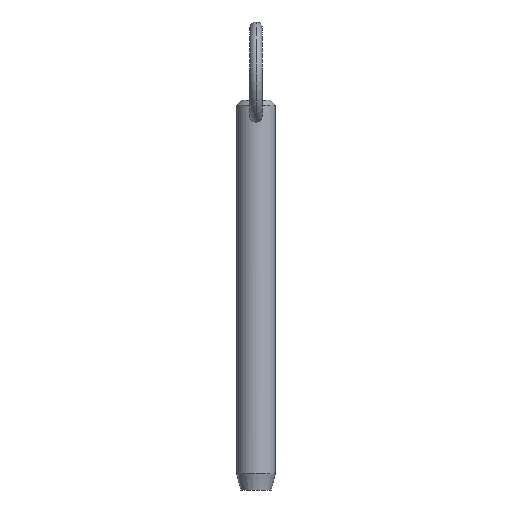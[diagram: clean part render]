
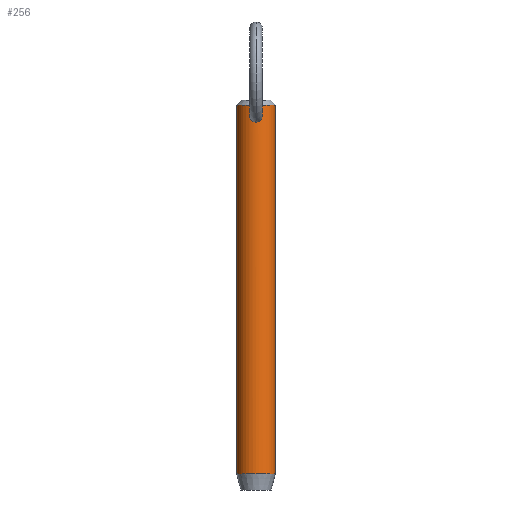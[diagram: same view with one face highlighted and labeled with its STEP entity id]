
A CAD part, front view. The second image highlights one B-rep face of the part: STEP entity #256.
In plain terms, the highlighted cylindrical face has radius 4.76 mm (diameter 9.52 mm), a partial arc.
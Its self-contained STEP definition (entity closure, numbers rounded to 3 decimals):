
#13 = DIRECTION ( 'NONE',  ( -1., 0., 0. ) ) ;
#14 = CARTESIAN_POINT ( 'NONE',  ( 0., 0., -8.7 ) ) ;
#18 = VERTEX_POINT ( 'NONE', #297 ) ;
#19 = CARTESIAN_POINT ( 'NONE',  ( -0.409, -4.743, 80.378 ) ) ;
#21 = AXIS2_PLACEMENT_3D ( 'NONE', #499, #255, #299 ) ;
#27 = CARTESIAN_POINT ( 'NONE',  ( 4.76, 0., 81.25 ) ) ;
#33 = CARTESIAN_POINT ( 'NONE',  ( 1.385, -4.554, 78.032 ) ) ;
#38 = VERTEX_POINT ( 'NONE', #45 ) ;
#45 = CARTESIAN_POINT ( 'NONE',  ( -4.76, 0., -8.7 ) ) ;
#50 = CARTESIAN_POINT ( 'NONE',  ( 1.19, -4.611, 79.724 ) ) ;
#52 = CARTESIAN_POINT ( 'NONE',  ( -0.103, -4.76, 80.448 ) ) ;
#71 = CARTESIAN_POINT ( 'NONE',  ( 1.24, -4.596, 77.76 ) ) ;
#75 = FACE_OUTER_BOUND ( 'NONE', #491, .T. ) ;
#77 = ORIENTED_EDGE ( 'NONE', *, *, #126, .T. ) ;
#89 = CARTESIAN_POINT ( 'NONE',  ( -1.487, -4.522, 78.953 ) ) ;
#103 = VERTEX_POINT ( 'NONE', #128 ) ;
#108 = EDGE_CURVE ( 'NONE', #300, #345, #520, .T. ) ;
#110 = CARTESIAN_POINT ( 'NONE',  ( 0.512, -4.733, 77.208 ) ) ;
#116 = CARTESIAN_POINT ( 'NONE',  ( 0., -4.76, 80.448 ) ) ;
#126 = EDGE_CURVE ( 'NONE', #300, #18, #211, .T. ) ;
#128 = CARTESIAN_POINT ( 'NONE',  ( 0., -4.76, 80.448 ) ) ;
#134 = AXIS2_PLACEMENT_3D ( 'NONE', #383, #502, #181 ) ;
#135 = CARTESIAN_POINT ( 'NONE',  ( -0.416, -4.746, 77.167 ) ) ;
#138 = CARTESIAN_POINT ( 'NONE',  ( -1.292, -4.582, 79.545 ) ) ;
#142 = CARTESIAN_POINT ( 'NONE',  ( 1.293, -4.582, 79.542 ) ) ;
#145 = DIRECTION ( 'NONE',  ( 0., 0., -1. ) ) ;
#159 = CARTESIAN_POINT ( 'NONE',  ( 1.492, -4.52, 78.848 ) ) ;
#162 = LINE ( 'NONE', #185, #394 ) ;
#173 = CARTESIAN_POINT ( 'NONE',  ( 0.409, -4.743, 80.378 ) ) ;
#174 = CARTESIAN_POINT ( 'NONE',  ( -1.19, -4.611, 79.724 ) ) ;
#176 = CARTESIAN_POINT ( 'NONE',  ( -1.247, -4.596, 77.752 ) ) ;
#179 = CARTESIAN_POINT ( 'NONE',  ( -0.793, -4.694, 77.339 ) ) ;
#180 = EDGE_LOOP ( 'NONE', ( #396, #352 ) ) ;
#181 = DIRECTION ( 'NONE',  ( -1., 0., 0. ) ) ;
#182 = EDGE_CURVE ( 'NONE', #38, #345, #375, .T. ) ;
#183 = CARTESIAN_POINT ( 'NONE',  ( 0.77, -4.698, 80.175 ) ) ;
#185 = CARTESIAN_POINT ( 'NONE',  ( -4.76, 0., 76.2 ) ) ;
#187 = ORIENTED_EDGE ( 'NONE', *, *, #275, .T. ) ;
#195 = CARTESIAN_POINT ( 'NONE',  ( 1.178, -4.613, 77.676 ) ) ;
#197 = CARTESIAN_POINT ( 'NONE',  ( 1.434, -4.539, 79.154 ) ) ;
#199 = VERTEX_POINT ( 'NONE', #346 ) ;
#211 = CIRCLE ( 'NONE', #21, 4.76 ) ;
#215 = CARTESIAN_POINT ( 'NONE',  ( -0.961, -4.663, 77.457 ) ) ;
#221 = CARTESIAN_POINT ( 'NONE',  ( -0.208, -4.757, 80.434 ) ) ;
#224 = CARTESIAN_POINT ( 'NONE',  ( 0.506, -4.734, 80.337 ) ) ;
#227 = EDGE_CURVE ( 'NONE', #199, #103, #463, .T. ) ;
#244 = CARTESIAN_POINT ( 'NONE',  ( 1.473, -4.526, 78.331 ) ) ;
#255 = DIRECTION ( 'NONE',  ( 0., 0., -1. ) ) ;
#256 = ADVANCED_FACE ( 'NONE', ( #75, #404 ), #456, .T. ) ;
#259 = CARTESIAN_POINT ( 'NONE',  ( -1.483, -4.524, 78.326 ) ) ;
#269 = CARTESIAN_POINT ( 'NONE',  ( 0.997, -4.655, 79.964 ) ) ;
#275 = EDGE_CURVE ( 'NONE', #18, #38, #162, .T. ) ;
#283 = CARTESIAN_POINT ( 'NONE',  ( 1.503, -4.517, 78.64 ) ) ;
#287 = CARTESIAN_POINT ( 'NONE',  ( 1.45, -4.534, 78.228 ) ) ;
#296 = ORIENTED_EDGE ( 'NONE', *, *, #182, .T. ) ;
#297 = CARTESIAN_POINT ( 'NONE',  ( -4.76, 0., 81.25 ) ) ;
#299 = DIRECTION ( 'NONE',  ( 1., 0., 0. ) ) ;
#300 = VERTEX_POINT ( 'NONE', #27 ) ;
#301 = CARTESIAN_POINT ( 'NONE',  ( 0., -4.76, 77.126 ) ) ;
#303 = CARTESIAN_POINT ( 'NONE',  ( -1.508, -4.515, 78.537 ) ) ;
#304 = CARTESIAN_POINT ( 'NONE',  ( 0., -4.76, 77.126 ) ) ;
#305 = DIRECTION ( 'NONE',  ( 0., 0., 1. ) ) ;
#308 = VECTOR ( 'NONE', #498, 1000. ) ;
#309 = ORIENTED_EDGE ( 'NONE', *, *, #108, .F. ) ;
#310 = CARTESIAN_POINT ( 'NONE',  ( -1.353, -4.564, 77.935 ) ) ;
#312 = CARTESIAN_POINT ( 'NONE',  ( 0.209, -4.756, 80.434 ) ) ;
#328 = CARTESIAN_POINT ( 'NONE',  ( 0.208, -4.757, 77.136 ) ) ;
#332 = CARTESIAN_POINT ( 'NONE',  ( 1.478, -4.525, 78.952 ) ) ;
#343 = CARTESIAN_POINT ( 'NONE',  ( -0.21, -4.76, 77.126 ) ) ;
#345 = VERTEX_POINT ( 'NONE', #473 ) ;
#346 = CARTESIAN_POINT ( 'NONE',  ( 0., -4.76, 77.126 ) ) ;
#349 = CARTESIAN_POINT ( 'NONE',  ( 0., -4.76, 80.448 ) ) ;
#352 = ORIENTED_EDGE ( 'NONE', *, *, #227, .T. ) ;
#358 = CARTESIAN_POINT ( 'NONE',  ( 0.797, -4.697, 77.329 ) ) ;
#366 = CARTESIAN_POINT ( 'NONE',  ( 0.104, -4.76, 80.448 ) ) ;
#375 = CIRCLE ( 'NONE', #492, 4.76 ) ;
#380 = CARTESIAN_POINT ( 'NONE',  ( 0.925, -4.67, 80.039 ) ) ;
#381 = CARTESIAN_POINT ( 'NONE',  ( -1.441, -4.537, 79.157 ) ) ;
#383 = CARTESIAN_POINT ( 'NONE',  ( 0., 0., 76.2 ) ) ;
#394 = VECTOR ( 'NONE', #145, 1000. ) ;
#396 = ORIENTED_EDGE ( 'NONE', *, *, #516, .T. ) ;
#399 = CARTESIAN_POINT ( 'NONE',  ( 1.404, -4.548, 79.253 ) ) ;
#404 = FACE_BOUND ( 'NONE', #180, .T. ) ;
#418 = CARTESIAN_POINT ( 'NONE',  ( -0.703, -4.709, 77.289 ) ) ;
#424 = CARTESIAN_POINT ( 'NONE',  ( -1.039, -4.646, 77.526 ) ) ;
#428 = B_SPLINE_CURVE_WITH_KNOTS ( 'NONE', 3,
 ( #116, #366, #312, #173, #224, #509, #183, #380, #269, #50, #142, #399, #197, #332, #159, #283, #525, #244, #287, #33, #444, #71, #195, #486, #358, #110, #437, #328, #458, #304 ),
 .UNSPECIFIED., .F., .F.,
 ( 4, 2, 2, 2, 2, 2, 2, 2, 2, 2, 2, 2, 2, 2, 4 ),
 ( 0.004, 0.005, 0.005, 0.005, 0.006, 0.006, 0.007, 0.007, 0.007, 0.007, 0.008, 0.008, 0.009, 0.009, 0.009 ),
 .UNSPECIFIED. ) ;
#437 = CARTESIAN_POINT ( 'NONE',  ( 0.411, -4.743, 77.177 ) ) ;
#444 = CARTESIAN_POINT ( 'NONE',  ( 1.344, -4.567, 77.939 ) ) ;
#451 = CARTESIAN_POINT ( 'NONE',  ( 4.76, 0., 76.2 ) ) ;
#456 = CYLINDRICAL_SURFACE ( 'NONE', #134, 4.76 ) ;
#458 = CARTESIAN_POINT ( 'NONE',  ( 0.105, -4.76, 77.126 ) ) ;
#459 = CARTESIAN_POINT ( 'NONE',  ( -0.932, -4.67, 80.045 ) ) ;
#461 = CARTESIAN_POINT ( 'NONE',  ( -0.504, -4.734, 80.338 ) ) ;
#463 = B_SPLINE_CURVE_WITH_KNOTS ( 'NONE', 3,
 ( #301, #343, #135, #418, #179, #215, #424, #176, #310, #259, #303, #89, #381, #138, #174, #459, #503, #461, #19, #221, #52, #349 ),
 .UNSPECIFIED., .F., .F.,
 ( 4, 2, 2, 2, 2, 2, 2, 2, 2, 2, 4 ),
 ( 0.009, 0.01, 0.01, 0.011, 0.011, 0.012, 0.012, 0.013, 0.014, 0.014, 0.014 ),
 .UNSPECIFIED. ) ;
#473 = CARTESIAN_POINT ( 'NONE',  ( 4.76, 0., -8.7 ) ) ;
#486 = CARTESIAN_POINT ( 'NONE',  ( 0.97, -4.662, 77.45 ) ) ;
#491 = EDGE_LOOP ( 'NONE', ( #309, #77, #187, #296 ) ) ;
#492 = AXIS2_PLACEMENT_3D ( 'NONE', #14, #305, #13 ) ;
#498 = DIRECTION ( 'NONE',  ( 0., 0., -1. ) ) ;
#499 = CARTESIAN_POINT ( 'NONE',  ( 0., 0., 81.25 ) ) ;
#502 = DIRECTION ( 'NONE',  ( 0., 0., -1. ) ) ;
#503 = CARTESIAN_POINT ( 'NONE',  ( -0.777, -4.7, 80.185 ) ) ;
#509 = CARTESIAN_POINT ( 'NONE',  ( 0.687, -4.711, 80.235 ) ) ;
#516 = EDGE_CURVE ( 'NONE', #103, #199, #428, .T. ) ;
#520 = LINE ( 'NONE', #451, #308 ) ;
#525 = CARTESIAN_POINT ( 'NONE',  ( 1.499, -4.518, 78.537 ) ) ;
